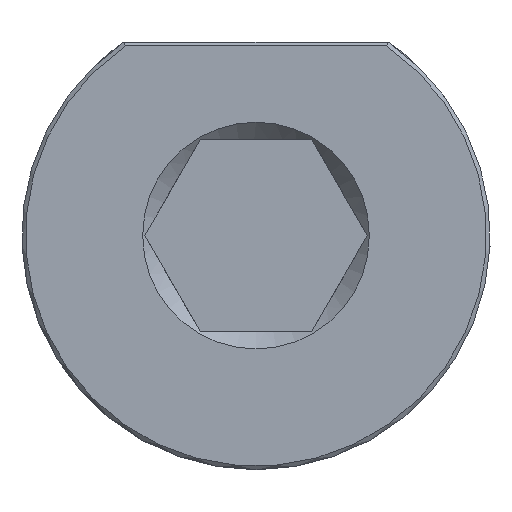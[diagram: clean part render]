
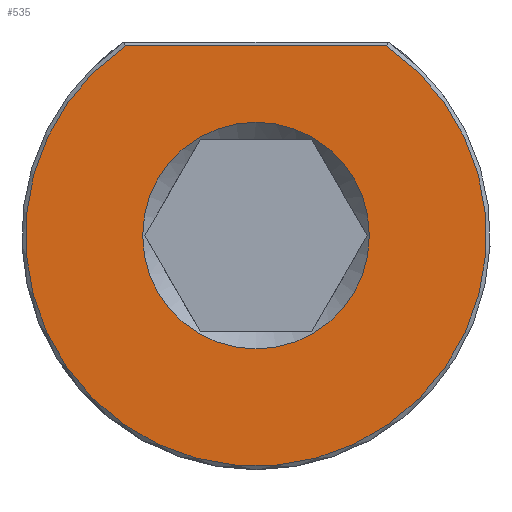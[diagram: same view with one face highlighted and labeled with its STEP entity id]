
A CAD part, front view. The second image highlights one B-rep face of the part: STEP entity #535.
In plain terms, the highlighted planar face has unit normal (0, -1, 0).
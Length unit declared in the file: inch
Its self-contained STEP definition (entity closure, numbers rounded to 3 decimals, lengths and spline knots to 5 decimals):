
#36=FACE_BOUND('',#113,.T.);
#42=CIRCLE('',#582,0.61);
#44=CIRCLE('',#586,0.3);
#80=FACE_OUTER_BOUND('',#112,.T.);
#112=EDGE_LOOP('',(#368,#369));
#113=EDGE_LOOP('',(#370));
#155=LINE('',#799,#189);
#189=VECTOR('',#644,0.3937);
#223=VERTEX_POINT('',#797);
#224=VERTEX_POINT('',#798);
#229=VERTEX_POINT('',#821);
#276=EDGE_CURVE('',#223,#224,#155,.T.);
#281=EDGE_CURVE('',#224,#223,#42,.T.);
#285=EDGE_CURVE('',#229,#229,#44,.T.);
#368=ORIENTED_EDGE('',*,*,#276,.F.);
#369=ORIENTED_EDGE('',*,*,#281,.F.);
#370=ORIENTED_EDGE('',*,*,#285,.F.);
#518=PLANE('',#585);
#535=ADVANCED_FACE('',(#80,#36),#518,.T.);
#582=AXIS2_PLACEMENT_3D('',#813,#650,#651);
#585=AXIS2_PLACEMENT_3D('',#820,#658,#659);
#586=AXIS2_PLACEMENT_3D('',#822,#660,#661);
#644=DIRECTION('',(1.,0.,0.));
#650=DIRECTION('center_axis',(0.,1.,0.));
#651=DIRECTION('ref_axis',(0.,0.,-1.));
#658=DIRECTION('center_axis',(0.,-1.,0.));
#659=DIRECTION('ref_axis',(0.,0.,-1.));
#660=DIRECTION('center_axis',(0.,-1.,0.));
#661=DIRECTION('ref_axis',(0.,0.,1.));
#797=CARTESIAN_POINT('',(-0.34655,0.,0.502));
#798=CARTESIAN_POINT('',(0.34655,0.,0.502));
#799=CARTESIAN_POINT('',(0.32358,0.,0.502));
#813=CARTESIAN_POINT('Origin',(0.,0.,0.));
#820=CARTESIAN_POINT('Origin',(0.,0.,-0.25));
#821=CARTESIAN_POINT('',(0.,0.,-0.3));
#822=CARTESIAN_POINT('Origin',(0.,0.,0.));
